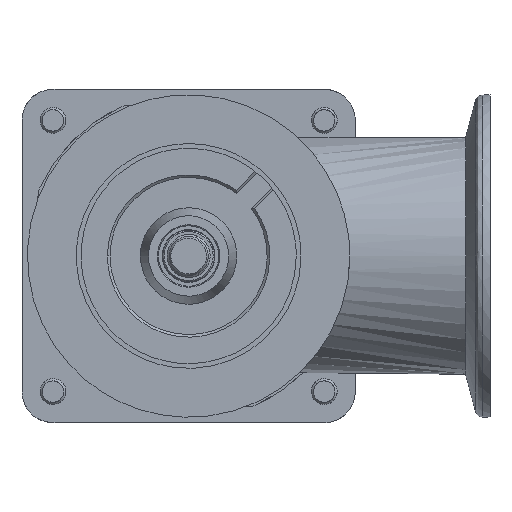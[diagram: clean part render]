
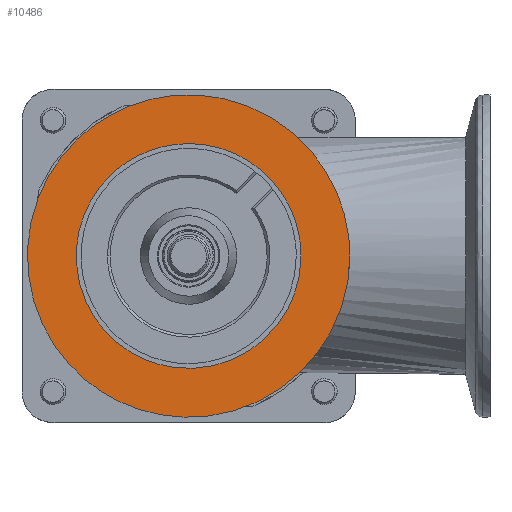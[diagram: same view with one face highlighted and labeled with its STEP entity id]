
A CAD part, front view. The second image highlights one B-rep face of the part: STEP entity #10486.
In plain terms, the highlighted free-form (B-spline) face has degree [1, 1] with [2, 2] control points.
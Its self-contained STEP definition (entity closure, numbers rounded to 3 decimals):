
#10428=CARTESIAN_POINT('V9',(0.,37.452,0.0)
   );
#10429=VERTEX_POINT('V9',#10428);
#10437=CARTESIAN_POINT('E13',(0.,37.452,0.0)
   );
#10438=CARTESIAN_POINT('E13',(0.,37.452,
   64.869));
#10439=CARTESIAN_POINT('E13',(0.,-18.726,
   32.435));
#10440=CARTESIAN_POINT('E13',(0.,-74.905,
   0.));
#10441=CARTESIAN_POINT('E13',(0.,-18.726,
   -32.435));
#10442=CARTESIAN_POINT('E13',(0.,37.452,
   -64.869));
#10443=CARTESIAN_POINT('E13',(0.,37.452,0.0)
   );
#10451=(BOUNDED_CURVE()B_SPLINE_CURVE(2,(#10437,#10438,#10439,
   #10440,#10441,#10442,#10443),.CIRCULAR_ARC.,.T.,.U.)
   B_SPLINE_CURVE_WITH_KNOTS((3,2,2,3),(0.0,70.167,
   140.333,210.5),.UNSPECIFIED.)CURVE()
   GEOMETRIC_REPRESENTATION_ITEM()RATIONAL_B_SPLINE_CURVE((1.0,
   0.5,1.0,0.5,1.0,0.5,1.0)
   )REPRESENTATION_ITEM('E13'));
#10452=EDGE_CURVE('E13',#10429,#10429,#10451,.T.);
#10457=CARTESIAN_POINT('F7',(0.,-41.198,
   41.198));
#10458=CARTESIAN_POINT('F7',(0.,41.198,
   41.198));
#10459=CARTESIAN_POINT('F7',(0.,-41.198,
   -41.198));
#10460=CARTESIAN_POINT('F7',(0.,41.198,
   -41.198));
#10461=QUASI_UNIFORM_SURFACE('F7',1,1,((#10457,#10459),(#10458,
   #10460)),.PLANE_SURF.,.F.,.F.,.U.);
#10462=ORIENTED_EDGE('F8',*,*,#10452,.T.);
#10463=EDGE_LOOP('F7',(#10462));
#10464=FACE_OUTER_BOUND('F7',#10463,.F.);
#10465=CARTESIAN_POINT('V8',(0.,26.1,0.0)
   );
#10466=VERTEX_POINT('V8',#10465);
#10467=CARTESIAN_POINT('E12',(0.,26.1,0.0)
   );
#10468=CARTESIAN_POINT('E12',(0.,26.1,
   45.207));
#10469=CARTESIAN_POINT('E12',(0.,-13.05,
   22.603));
#10470=CARTESIAN_POINT('E12',(0.,-52.2,
   0.));
#10471=CARTESIAN_POINT('E12',(0.,-13.05,
   -22.603));
#10472=CARTESIAN_POINT('E12',(0.,26.1,
   -45.207));
#10473=CARTESIAN_POINT('E12',(0.,26.1,0.0)
   );
#10481=(BOUNDED_CURVE()B_SPLINE_CURVE(2,(#10467,#10468,#10469,
   #10470,#10471,#10472,#10473),.CIRCULAR_ARC.,.T.,.U.)
   B_SPLINE_CURVE_WITH_KNOTS((3,2,2,3),(0.0,0.333,
   0.667,1.0),.UNSPECIFIED.)CURVE()
   GEOMETRIC_REPRESENTATION_ITEM()RATIONAL_B_SPLINE_CURVE((1.0,
   0.5,1.0,0.5,1.0,0.5,1.0)
   )REPRESENTATION_ITEM('E12'));
#10482=EDGE_CURVE('E12',#10466,#10466,#10481,.T.);
#10483=ORIENTED_EDGE('E12',*,*,#10482,.F.);
#10484=EDGE_LOOP('F7',(#10483));
#10485=FACE_BOUND('F7',#10484,.F.);
#10486=ADVANCED_FACE('F7',(#10464,#10485),#10461,.T.);
